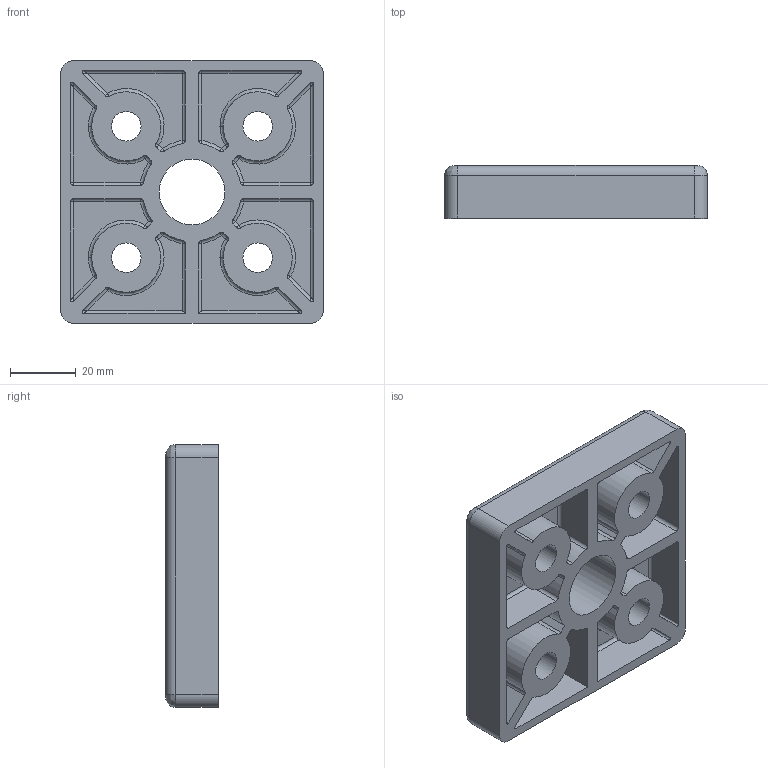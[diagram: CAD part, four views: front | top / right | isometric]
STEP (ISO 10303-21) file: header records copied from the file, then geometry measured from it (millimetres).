
FILE_DESCRIPTION (( 'STEP AP203' ), '1' );
FILE_NAME ('14530_FUS8080M20.STEP', '2018-05-24T10:49:01', ( '' ), ( '' ), 'SwSTEP 2.0', 'SolidWorks 2017', '' );
FILE_SCHEMA (( 'CONFIG_CONTROL_DESIGN' ));
Length unit declared in the file: millimetre
Products named in the file (1): 14530_FUS8080M20
Bounding box: 80 x 16 x 80 mm (x, y, z)
Volume: 55214.1 mm3; surface area: 29173.7 mm2
Topology: 1 solids, 1 shells, 260 faces, 614 edges, 339 vertices
Faces by surface type: cylinder 131, bspline 77, plane 50, cone 2
Entity records: 9907 total; most frequent: CARTESIAN_POINT 4233, DIRECTION 1195, ORIENTED_EDGE 1170, EDGE_CURVE 585, AXIS2_PLACEMENT_3D 477, VERTEX_POINT 339, CIRCLE 293, EDGE_LOOP 282
